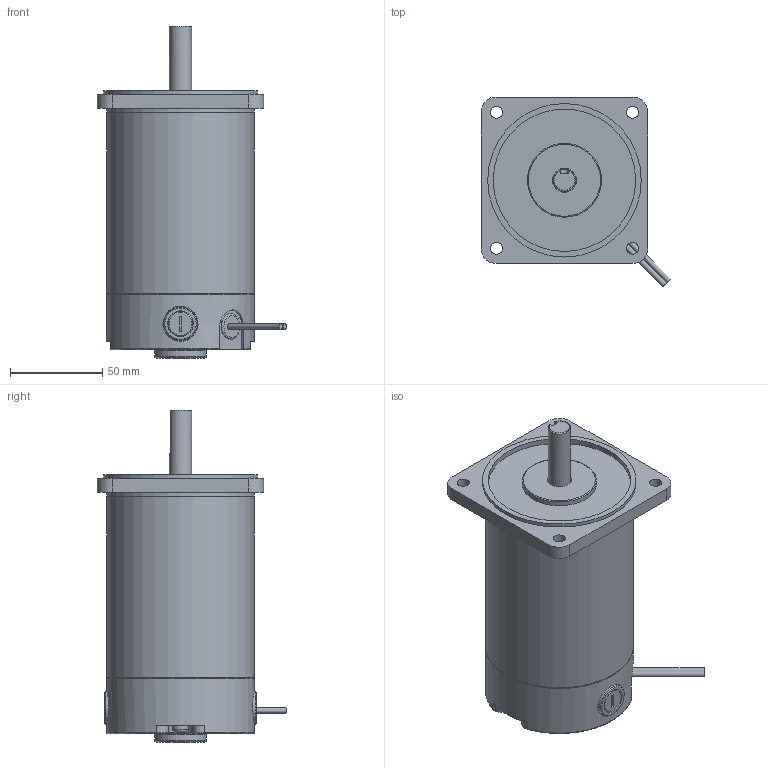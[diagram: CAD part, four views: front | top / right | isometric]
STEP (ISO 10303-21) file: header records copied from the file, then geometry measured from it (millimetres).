
FILE_DESCRIPTION((''),'2;1');
FILE_NAME('C:\Documents and Settings\ycw1227\바탕 화면\S9D60-ㅁK.stp','2013-06-05T11:04:20',('ycw1227'),(''),'Autodesk Inventor 2011','Autodesk Inventor 2011','');
FILE_SCHEMA(('AUTOMOTIVE_DESIGN { 1 0 10303 214 1 1 1 1 }'));
Length unit declared in the file: millimetre
Products named in the file (1): 부품4
Bounding box: 102.45 x 102.45 x 179.5 mm (x, y, z)
Volume: 719886.2 mm3; surface area: 61989.1 mm2
Topology: 1 solids, 3 shells, 167 faces, 393 edges, 256 vertices
Faces by surface type: plane 90, cylinder 47, torus 16, cone 14
Full cylindrical faces by diameter (mm): 3 x2, 5 x2, 6.5 x4, 8.5 x2, 9 x1, 12 x1, 13 x1, 13.5 x2, 14 x3, 18 x2, 19 x2, 28 x1, 40 x1, 77 x1, 80 x3, 83 x1
Entity records: 4877 total; most frequent: CARTESIAN_POINT 1005, DIRECTION 784, ORIENTED_EDGE 698, EDGE_CURVE 349, AXIS2_PLACEMENT_3D 310, VERTEX_POINT 251, EDGE_LOOP 239, FACE_OUTER_BOUND 167
